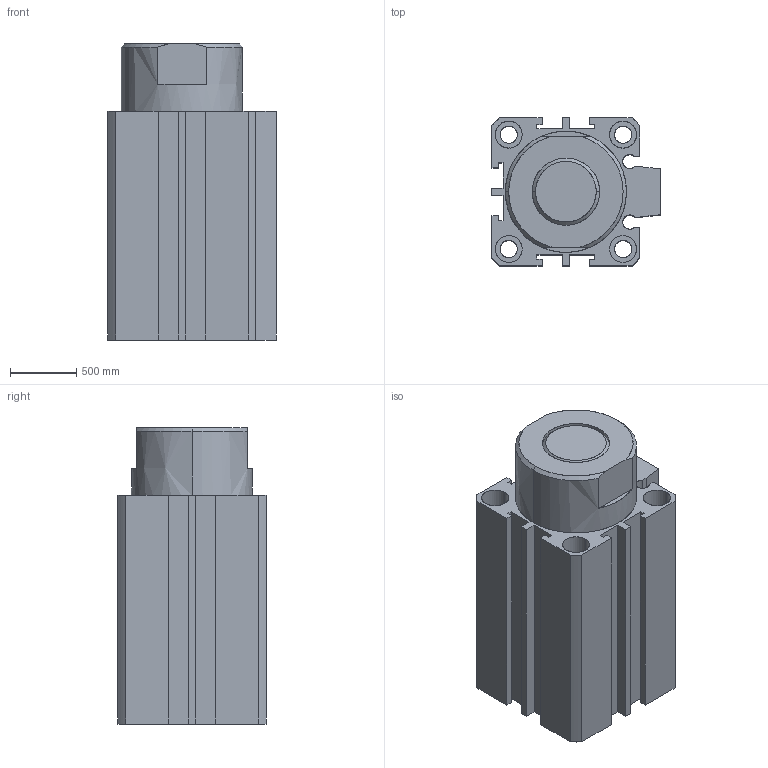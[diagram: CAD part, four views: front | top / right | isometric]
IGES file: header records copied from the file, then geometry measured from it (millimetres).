
Start section: SolidWorks IGES file using analytic representation for surfaces
Global section: file name: C:\Documents and Settings\Standard\Bureau\NM pieces 3d\ELO 32 20 tige entrée.IGS; native system: SolidWorks 2007; preprocessor: SolidWorks 2007; author: Standard; date: 080328.102402; units: inch
Bounding box: 1270 x 1117.6 x 2235.2 mm (x, y, z)
Surface area: 23212611 mm2 (no closed solid volume)
Topology: 0 solids, 0 shells, 528 faces, 13317 edges, 13359 vertices
Faces by surface type: bspline 481, revolution 47
